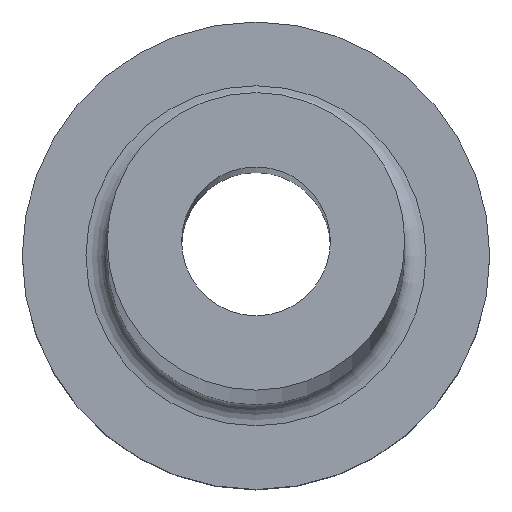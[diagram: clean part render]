
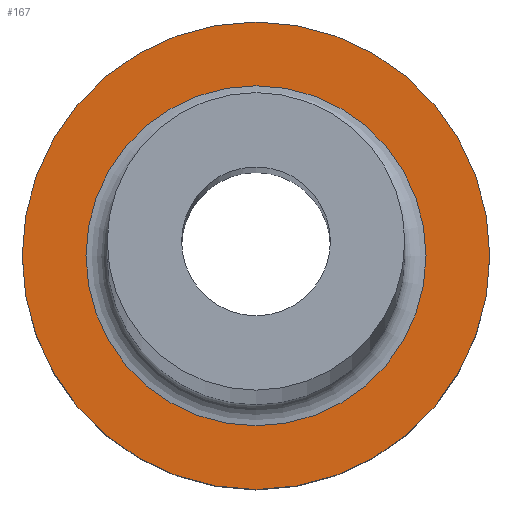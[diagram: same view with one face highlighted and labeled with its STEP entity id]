
A CAD part, top view. The second image highlights one B-rep face of the part: STEP entity #167.
In plain terms, the highlighted planar face has unit normal (0, 0, 1).
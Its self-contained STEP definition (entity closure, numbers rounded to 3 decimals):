
#7 = DIRECTION ( 'NONE',  ( 0., 0., 1. ) ) ;
#9 = CARTESIAN_POINT ( 'NONE',  ( 0., 0., 6. ) ) ;
#20 = CARTESIAN_POINT ( 'NONE',  ( 5.5, 0., 6. ) ) ;
#44 = AXIS2_PLACEMENT_3D ( 'NONE', #132, #281, #46 ) ;
#46 = DIRECTION ( 'NONE',  ( 1., 0., 0. ) ) ;
#58 = FACE_BOUND ( 'NONE', #236, .T. ) ;
#86 = CIRCLE ( 'NONE', #193, 4. ) ;
#89 = CARTESIAN_POINT ( 'NONE',  ( 0., 0., 6. ) ) ;
#102 = CARTESIAN_POINT ( 'NONE',  ( 4., 0., 6. ) ) ;
#107 = FACE_OUTER_BOUND ( 'NONE', #149, .T. ) ;
#122 = PLANE ( 'NONE',  #135 ) ;
#124 = EDGE_CURVE ( 'NONE', #261, #261, #128, .T. ) ;
#128 = CIRCLE ( 'NONE', #44, 5.5 ) ;
#132 = CARTESIAN_POINT ( 'NONE',  ( 0., 0., 6. ) ) ;
#135 = AXIS2_PLACEMENT_3D ( 'NONE', #9, #7, #246 ) ;
#149 = EDGE_LOOP ( 'NONE', ( #243 ) ) ;
#160 = DIRECTION ( 'NONE',  ( 1., 0., 0. ) ) ;
#167 = ADVANCED_FACE ( 'NONE', ( #58, #107 ), #122, .T. ) ;
#170 = VERTEX_POINT ( 'NONE', #102 ) ;
#193 = AXIS2_PLACEMENT_3D ( 'NONE', #89, #198, #160 ) ;
#198 = DIRECTION ( 'NONE',  ( 0., 0., -1. ) ) ;
#206 = EDGE_CURVE ( 'NONE', #170, #170, #86, .T. ) ;
#236 = EDGE_LOOP ( 'NONE', ( #263 ) ) ;
#243 = ORIENTED_EDGE ( 'NONE', *, *, #124, .T. ) ;
#246 = DIRECTION ( 'NONE',  ( 1., 0., 0. ) ) ;
#261 = VERTEX_POINT ( 'NONE', #20 ) ;
#263 = ORIENTED_EDGE ( 'NONE', *, *, #206, .T. ) ;
#281 = DIRECTION ( 'NONE',  ( 0., 0., 1. ) ) ;
